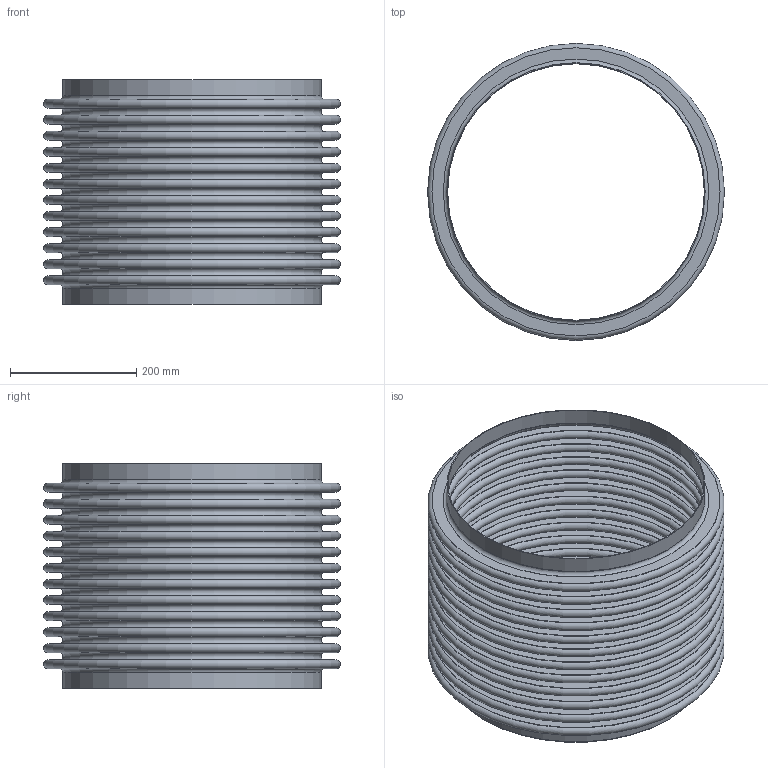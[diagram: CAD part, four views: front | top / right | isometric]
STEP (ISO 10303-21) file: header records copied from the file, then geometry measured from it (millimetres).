
FILE_DESCRIPTION(/* description */ (''),/* implementation_level */ '2;1');
FILE_NAME(/* name */ 'US-16-12-85L.stp',/* time_stamp */ '2026-07-21T11:16:16-05:00',/* author */ ('linda'),/* organization */ (''),/* preprocessor_version */ 'ST-DEVELOPER v20.1',/* originating_system */ 'Autodesk Inventor 2026',/* authorisation */ '');
FILE_SCHEMA (('AUTOMOTIVE_DESIGN { 1 0 10303 214 3 1 1 }'));
Length unit declared in the file: inch
Products named in the file (1): Part3
Bounding box: 469.9 x 469.9 x 355.6 mm (x, y, z)
Volume: 1600980.5 mm3; surface area: 2635648.1 mm2
Topology: 3 solids, 3 shells, 108 faces, 162 edges, 109 vertices
Faces by surface type: plane 54, torus 50, cylinder 4
Full cylindrical faces by diameter (mm): 406.4 x2, 408.838 x2
Entity records: 2667 total; most frequent: DIRECTION 538, CARTESIAN_POINT 380, ORIENTED_EDGE 324, AXIS2_PLACEMENT_3D 267, EDGE_LOOP 162, EDGE_CURVE 162, CIRCLE 158, STYLED_ITEM 111
